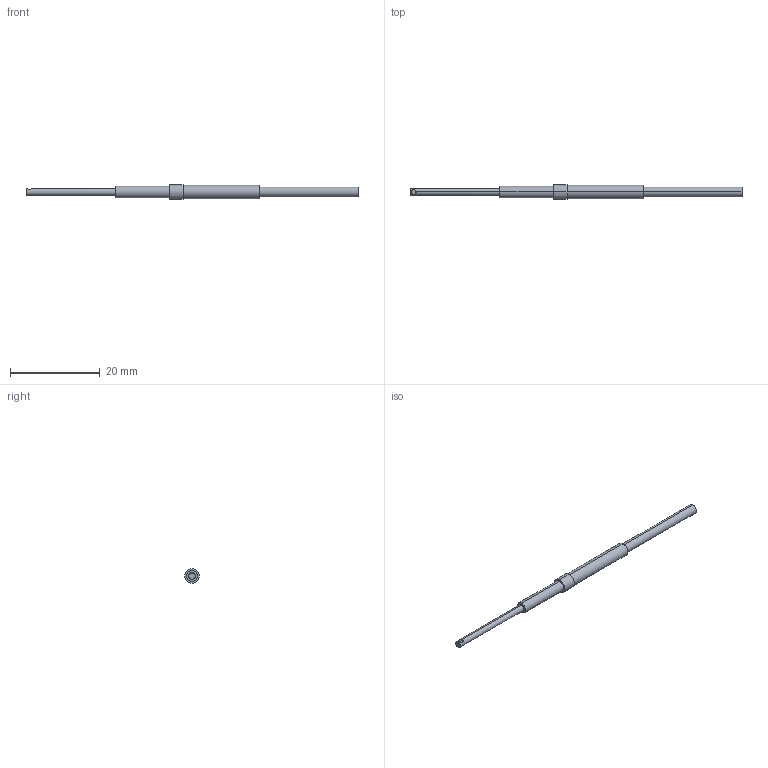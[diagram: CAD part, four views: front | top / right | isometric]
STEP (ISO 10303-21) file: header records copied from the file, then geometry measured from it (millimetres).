
FILE_DESCRIPTION (( 'STEP AP203' ), '1' );
FILE_NAME ('FT-SFM2SV2.STEP', '2005-09-08T02:25:06', ( '' ), ( '' ), 'SwSTEP 2.0', 'SolidWorks 2004073', '' );
FILE_SCHEMA (( 'CONFIG_CONTROL_DESIGN' ));
Length unit declared in the file: millimetre
Products named in the file (1): FT-SFM2SV2
Bounding box: 74 x 3.3 x 3.3 mm (x, y, z)
Volume: 323.5 mm3; surface area: 549.5 mm2
Topology: 1 solids, 1 shells, 19 faces, 37 edges, 24 vertices
Faces by surface type: cylinder 12, plane 7
Entity records: 604 total; most frequent: CARTESIAN_POINT 115, DIRECTION 97, ORIENTED_EDGE 74, AXIS2_PLACEMENT_3D 42, EDGE_CURVE 37, VERTEX_POINT 24, EDGE_LOOP 23, CIRCLE 22
